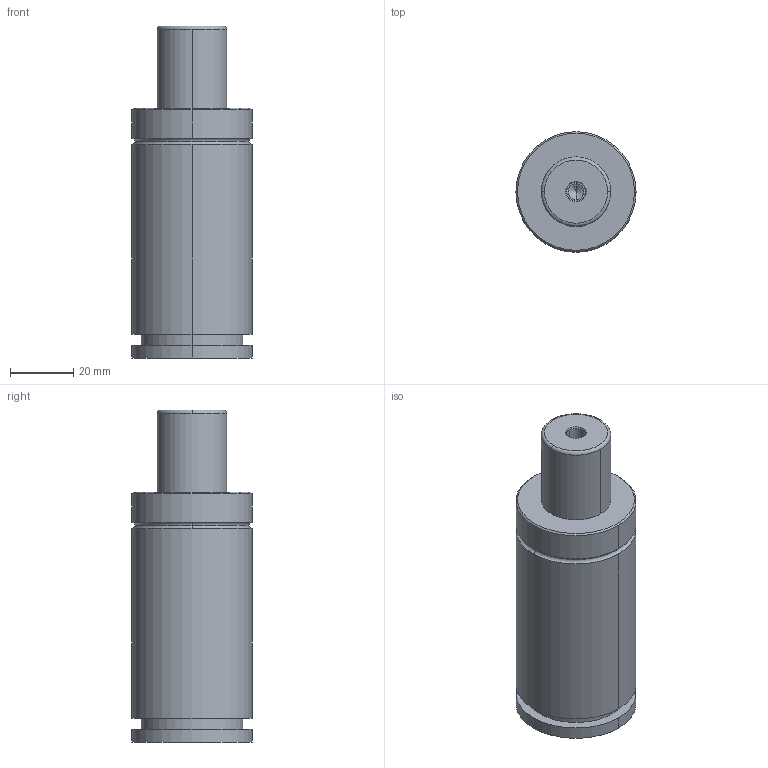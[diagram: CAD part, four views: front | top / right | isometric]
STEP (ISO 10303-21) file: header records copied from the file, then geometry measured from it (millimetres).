
FILE_DESCRIPTION(('FreeCAD Model'),'2;1');
FILE_NAME('Open CASCADE Shape Model','2024-11-12T15:44:08',('Author'),( ''),'Open CASCADE STEP processor 7.6','FreeCAD','Unknown');
FILE_SCHEMA(('AUTOMOTIVE_DESIGN { 1 0 10303 214 1 1 1 1 }'));
Length unit declared in the file: millimetre
Products named in the file (3): Part001; Cut; 2
Assembly tree (2 placements, depth 2):
  Part001
    Cut
    2
Bounding box: 38 x 38 x 105 mm (x, y, z)
Volume: 87104.6 mm3; surface area: 17548.6 mm2
Topology: 2 solids, 2 shells, 43 faces, 89 edges, 56 vertices
Faces by surface type: cylinder 20, plane 11, torus 6, cone 6
Full cylindrical faces by diameter (mm): 6 x2
Entity records: 1221 total; most frequent: DIRECTION 240, CARTESIAN_POINT 189, ORIENTED_EDGE 174, AXIS2_PLACEMENT_3D 107, EDGE_CURVE 87, CIRCLE 61, VERTEX_POINT 56, FACE_BOUND 51
